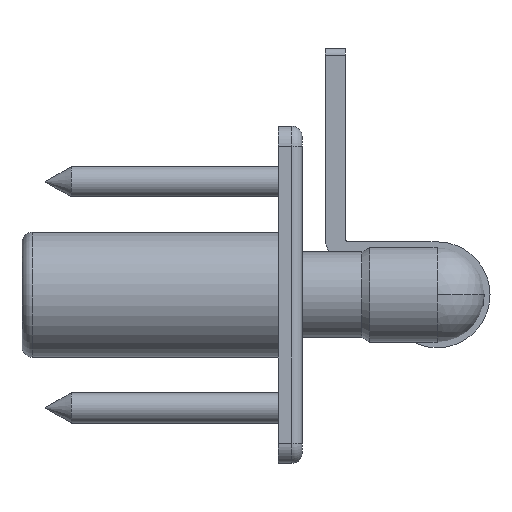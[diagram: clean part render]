
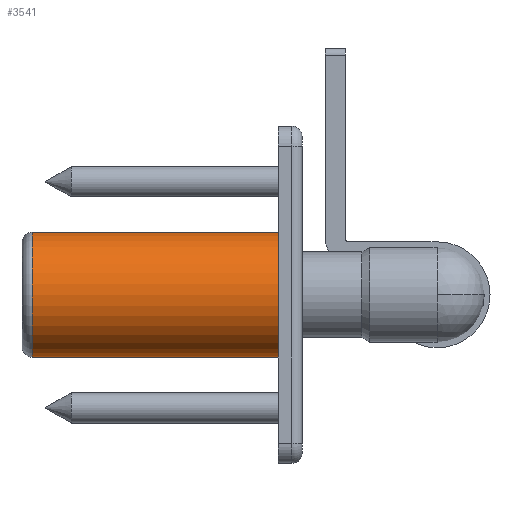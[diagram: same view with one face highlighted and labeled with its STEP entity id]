
A CAD part, front view. The second image highlights one B-rep face of the part: STEP entity #3541.
In plain terms, the highlighted cylindrical face has radius 9.25 mm (diameter 18.5 mm), a partial arc.
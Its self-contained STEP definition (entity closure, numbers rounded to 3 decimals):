
#10 = ORIENTED_EDGE ( 'NONE', *, *, #2373, .T. ) ;
#116 = ORIENTED_EDGE ( 'NONE', *, *, #2732, .T. ) ;
#146 = EDGE_CURVE ( 'NONE', #1498, #1793, #1877, .T. ) ;
#231 = FACE_OUTER_BOUND ( 'NONE', #2095, .T. ) ;
#322 = CARTESIAN_POINT ( 'NONE',  ( -36.5, 0., -9.25 ) ) ;
#518 = DIRECTION ( 'NONE',  ( 1., 0., 0. ) ) ;
#580 = CIRCLE ( 'NONE', #1438, 9.25 ) ;
#624 = LINE ( 'NONE', #1981, #3255 ) ;
#679 = CARTESIAN_POINT ( 'NONE',  ( 0., 0., -9.25 ) ) ;
#754 = ORIENTED_EDGE ( 'NONE', *, *, #146, .F. ) ;
#954 = DIRECTION ( 'NONE',  ( 0., 0., 1. ) ) ;
#1030 = CYLINDRICAL_SURFACE ( 'NONE', #2032, 9.25 ) ;
#1127 = CARTESIAN_POINT ( 'NONE',  ( -36.5, 0., 9.25 ) ) ;
#1175 = DIRECTION ( 'NONE',  ( 1., 0., 0. ) ) ;
#1240 = CARTESIAN_POINT ( 'NONE',  ( 0., 0., 0. ) ) ;
#1316 = DIRECTION ( 'NONE',  ( 1., 0., 0. ) ) ;
#1366 = EDGE_CURVE ( 'NONE', #1498, #3218, #580, .T. ) ;
#1438 = AXIS2_PLACEMENT_3D ( 'NONE', #1914, #518, #3275 ) ;
#1498 = VERTEX_POINT ( 'NONE', #1127 ) ;
#1609 = VERTEX_POINT ( 'NONE', #679 ) ;
#1793 = VERTEX_POINT ( 'NONE', #1974 ) ;
#1868 = DIRECTION ( 'NONE',  ( 0., 0., -1. ) ) ;
#1877 = LINE ( 'NONE', #3532, #1898 ) ;
#1885 = CIRCLE ( 'NONE', #2918, 9.25 ) ;
#1898 = VECTOR ( 'NONE', #2976, 1000. ) ;
#1914 = CARTESIAN_POINT ( 'NONE',  ( -36.5, 0., 0. ) ) ;
#1974 = CARTESIAN_POINT ( 'NONE',  ( 0., 0., 9.25 ) ) ;
#1981 = CARTESIAN_POINT ( 'NONE',  ( -38., 0., -9.25 ) ) ;
#2032 = AXIS2_PLACEMENT_3D ( 'NONE', #2405, #1316, #1868 ) ;
#2095 = EDGE_LOOP ( 'NONE', ( #754, #2246, #116, #10 ) ) ;
#2246 = ORIENTED_EDGE ( 'NONE', *, *, #1366, .T. ) ;
#2373 = EDGE_CURVE ( 'NONE', #1609, #1793, #1885, .T. ) ;
#2405 = CARTESIAN_POINT ( 'NONE',  ( -38., 0., 0. ) ) ;
#2617 = DIRECTION ( 'NONE',  ( -1., 0., 0. ) ) ;
#2732 = EDGE_CURVE ( 'NONE', #3218, #1609, #624, .T. ) ;
#2918 = AXIS2_PLACEMENT_3D ( 'NONE', #1240, #2617, #954 ) ;
#2976 = DIRECTION ( 'NONE',  ( 1., 0., 0. ) ) ;
#3218 = VERTEX_POINT ( 'NONE', #322 ) ;
#3255 = VECTOR ( 'NONE', #1175, 1000. ) ;
#3275 = DIRECTION ( 'NONE',  ( 0., 0., 1. ) ) ;
#3532 = CARTESIAN_POINT ( 'NONE',  ( -38., 0., 9.25 ) ) ;
#3541 = ADVANCED_FACE ( 'NONE', ( #231 ), #1030, .T. ) ;
